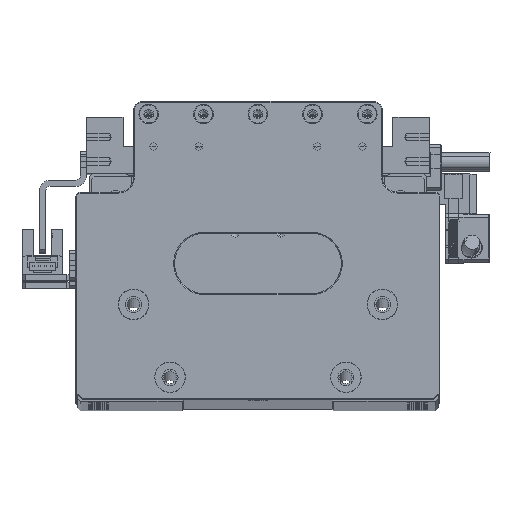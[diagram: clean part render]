
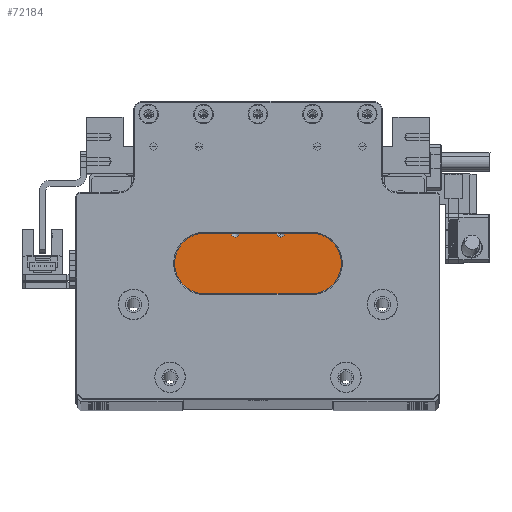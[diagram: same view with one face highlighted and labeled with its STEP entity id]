
A CAD part, top view. The second image highlights one B-rep face of the part: STEP entity #72184.
In plain terms, the highlighted planar face has unit normal (0, 0, 1).
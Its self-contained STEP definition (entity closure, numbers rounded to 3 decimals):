
#1849 = ORIENTED_EDGE ( 'NONE', *, *, #112720, .T. ) ;
#3081 = ORIENTED_EDGE ( 'NONE', *, *, #17561, .T. ) ;
#5311 = CARTESIAN_POINT ( 'NONE',  ( 13.868, -9.023, 375. ) ) ;
#6074 = LINE ( 'NONE', #112083, #26232 ) ;
#6827 = LINE ( 'NONE', #116696, #62844 ) ;
#8399 = AXIS2_PLACEMENT_3D ( 'NONE', #94282, #34593, #104361 ) ;
#10085 = LINE ( 'NONE', #73878, #112854 ) ;
#10655 = CARTESIAN_POINT ( 'NONE',  ( -4.632, -17.023, 375. ) ) ;
#11977 = ORIENTED_EDGE ( 'NONE', *, *, #92248, .T. ) ;
#13084 = VERTEX_POINT ( 'NONE', #65665 ) ;
#16461 = DIRECTION ( 'NONE',  ( 1., 0., 0. ) ) ;
#17561 = EDGE_CURVE ( 'NONE', #113698, #66243, #104749, .T. ) ;
#20453 = DIRECTION ( 'NONE',  ( 0., -1., 0. ) ) ;
#24317 = ORIENTED_EDGE ( 'NONE', *, *, #79699, .T. ) ;
#24673 = VERTEX_POINT ( 'NONE', #100343 ) ;
#24695 = ORIENTED_EDGE ( 'NONE', *, *, #85502, .T. ) ;
#26232 = VECTOR ( 'NONE', #122066, 1000. ) ;
#26905 = VECTOR ( 'NONE', #125362, 1000. ) ;
#27742 = VERTEX_POINT ( 'NONE', #88031 ) ;
#27844 = CARTESIAN_POINT ( 'NONE',  ( -12.132, -17.023, 375. ) ) ;
#28764 = ORIENTED_EDGE ( 'NONE', *, *, #33882, .T. ) ;
#30646 = DIRECTION ( 'NONE',  ( -1., 0., 0. ) ) ;
#31858 = EDGE_LOOP ( 'NONE', ( #24317, #1849 ) ) ;
#32697 = EDGE_CURVE ( 'NONE', #122913, #113698, #10085, .T. ) ;
#32772 = CARTESIAN_POINT ( 'NONE',  ( 2.868, -17.023, 375. ) ) ;
#33882 = EDGE_CURVE ( 'NONE', #66243, #51157, #100193, .T. ) ;
#34208 = DIRECTION ( 'NONE',  ( 0., 1., 0. ) ) ;
#34593 = DIRECTION ( 'NONE',  ( 0., 0., -1. ) ) ;
#37798 = DIRECTION ( 'NONE',  ( 1., 0., 0. ) ) ;
#40325 = CARTESIAN_POINT ( 'NONE',  ( 13.868, -9.223, 375. ) ) ;
#41749 = VECTOR ( 'NONE', #30646, 1000. ) ;
#42246 = ORIENTED_EDGE ( 'NONE', *, *, #32697, .T. ) ;
#42788 = DIRECTION ( 'NONE',  ( 1., 0., 0. ) ) ;
#43457 = CARTESIAN_POINT ( 'NONE',  ( -23.132, -17.023, 375. ) ) ;
#44754 = CARTESIAN_POINT ( 'NONE',  ( 2.868, -17.023, 375. ) ) ;
#50359 = CARTESIAN_POINT ( 'NONE',  ( 25.168, -49.223, 375. ) ) ;
#50851 = VECTOR ( 'NONE', #59612, 1000. ) ;
#51157 = VERTEX_POINT ( 'NONE', #40325 ) ;
#52161 = ORIENTED_EDGE ( 'NONE', *, *, #87332, .T. ) ;
#53711 = CIRCLE ( 'NONE', #70452, 1.25 ) ;
#54765 = DIRECTION ( 'NONE',  ( 1., 0., 0. ) ) ;
#56032 = PLANE ( 'NONE',  #89620 ) ;
#57018 = DIRECTION ( 'NONE',  ( 1., 0., 0. ) ) ;
#57060 = VERTEX_POINT ( 'NONE', #74931 ) ;
#59612 = DIRECTION ( 'NONE',  ( 0., -1., 0. ) ) ;
#60812 = ORIENTED_EDGE ( 'NONE', *, *, #106221, .T. ) ;
#61707 = CIRCLE ( 'NONE', #74315, 1.25 ) ;
#62006 = ORIENTED_EDGE ( 'NONE', *, *, #95898, .T. ) ;
#62652 = EDGE_CURVE ( 'NONE', #65383, #122020, #76222, .T. ) ;
#62844 = VECTOR ( 'NONE', #57018, 1000. ) ;
#65383 = VERTEX_POINT ( 'NONE', #103056 ) ;
#65665 = CARTESIAN_POINT ( 'NONE',  ( -34.432, -17.023, 375. ) ) ;
#66243 = VERTEX_POINT ( 'NONE', #115834 ) ;
#68267 = LINE ( 'NONE', #10655, #41749 ) ;
#70452 = AXIS2_PLACEMENT_3D ( 'NONE', #27844, #97554, #37798 ) ;
#72184 = ADVANCED_FACE ( 'NONE', ( #98618, #128192, #75243 ), #56032, .T. ) ;
#73878 = CARTESIAN_POINT ( 'NONE',  ( 25.168, -9.023, 375. ) ) ;
#74315 = AXIS2_PLACEMENT_3D ( 'NONE', #32772, #102538, #42788 ) ;
#74931 = CARTESIAN_POINT ( 'NONE',  ( -10.882, -17.023, 375. ) ) ;
#75243 = FACE_BOUND ( 'NONE', #31858, .T. ) ;
#76124 = DIRECTION ( 'NONE',  ( 0., 0., 1. ) ) ;
#76222 = CIRCLE ( 'NONE', #88102, 1.25 ) ;
#79699 = EDGE_CURVE ( 'NONE', #57060, #85916, #53711, .T. ) ;
#83996 = EDGE_LOOP ( 'NONE', ( #122468, #60812, #62006, #11977, #52161, #42246, #3081, #28764 ) ) ;
#85502 = EDGE_CURVE ( 'NONE', #122020, #65383, #61707, .T. ) ;
#85916 = VERTEX_POINT ( 'NONE', #99395 ) ;
#86001 = LINE ( 'NONE', #100151, #112431 ) ;
#87332 = EDGE_CURVE ( 'NONE', #24673, #122913, #6827, .T. ) ;
#88031 = CARTESIAN_POINT ( 'NONE',  ( -23.132, -9.223, 375. ) ) ;
#88102 = AXIS2_PLACEMENT_3D ( 'NONE', #44754, #114458, #54765 ) ;
#89620 = AXIS2_PLACEMENT_3D ( 'NONE', #125710, #76124, #16461 ) ;
#92248 = EDGE_CURVE ( 'NONE', #13084, #24673, #127246, .T. ) ;
#93310 = CIRCLE ( 'NONE', #8399, 1.25 ) ;
#94282 = CARTESIAN_POINT ( 'NONE',  ( -12.132, -17.023, 375. ) ) ;
#95898 = EDGE_CURVE ( 'NONE', #101494, #13084, #68267, .T. ) ;
#97554 = DIRECTION ( 'NONE',  ( 0., 0., -1. ) ) ;
#98618 = FACE_OUTER_BOUND ( 'NONE', #83996, .T. ) ;
#99395 = CARTESIAN_POINT ( 'NONE',  ( -13.382, -17.023, 375. ) ) ;
#100151 = CARTESIAN_POINT ( 'NONE',  ( -23.132, -9.023, 375. ) ) ;
#100193 = LINE ( 'NONE', #5311, #26905 ) ;
#100343 = CARTESIAN_POINT ( 'NONE',  ( -34.432, -49.223, 375. ) ) ;
#101494 = VERTEX_POINT ( 'NONE', #43457 ) ;
#102538 = DIRECTION ( 'NONE',  ( 0., 0., -1. ) ) ;
#103056 = CARTESIAN_POINT ( 'NONE',  ( 4.118, -17.023, 375. ) ) ;
#103591 = DIRECTION ( 'NONE',  ( -1., 0., 0. ) ) ;
#104361 = DIRECTION ( 'NONE',  ( 1., 0., 0. ) ) ;
#104749 = LINE ( 'NONE', #123568, #128072 ) ;
#106221 = EDGE_CURVE ( 'NONE', #27742, #101494, #86001, .T. ) ;
#112083 = CARTESIAN_POINT ( 'NONE',  ( -4.632, -9.223, 375. ) ) ;
#112431 = VECTOR ( 'NONE', #20453, 1000. ) ;
#112720 = EDGE_CURVE ( 'NONE', #85916, #57060, #93310, .T. ) ;
#112854 = VECTOR ( 'NONE', #34208, 1000. ) ;
#113698 = VERTEX_POINT ( 'NONE', #123945 ) ;
#114458 = DIRECTION ( 'NONE',  ( 0., 0., -1. ) ) ;
#115581 = EDGE_LOOP ( 'NONE', ( #123442, #24695 ) ) ;
#115834 = CARTESIAN_POINT ( 'NONE',  ( 13.868, -17.023, 375. ) ) ;
#116696 = CARTESIAN_POINT ( 'NONE',  ( -34.632, -49.223, 375. ) ) ;
#118856 = CARTESIAN_POINT ( 'NONE',  ( -34.432, -9.023, 375. ) ) ;
#122020 = VERTEX_POINT ( 'NONE', #125945 ) ;
#122066 = DIRECTION ( 'NONE',  ( -1., 0., 0. ) ) ;
#122468 = ORIENTED_EDGE ( 'NONE', *, *, #128109, .T. ) ;
#122913 = VERTEX_POINT ( 'NONE', #50359 ) ;
#123442 = ORIENTED_EDGE ( 'NONE', *, *, #62652, .T. ) ;
#123568 = CARTESIAN_POINT ( 'NONE',  ( -4.632, -17.023, 375. ) ) ;
#123945 = CARTESIAN_POINT ( 'NONE',  ( 25.168, -17.023, 375. ) ) ;
#125362 = DIRECTION ( 'NONE',  ( 0., 1., 0. ) ) ;
#125710 = CARTESIAN_POINT ( 'NONE',  ( -4.632, -9.023, 375. ) ) ;
#125945 = CARTESIAN_POINT ( 'NONE',  ( 1.618, -17.023, 375. ) ) ;
#127246 = LINE ( 'NONE', #118856, #50851 ) ;
#128072 = VECTOR ( 'NONE', #103591, 1000. ) ;
#128109 = EDGE_CURVE ( 'NONE', #51157, #27742, #6074, .T. ) ;
#128192 = FACE_BOUND ( 'NONE', #115581, .T. ) ;
